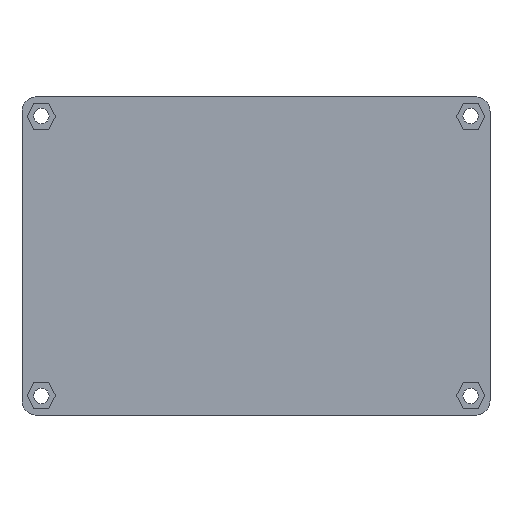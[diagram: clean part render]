
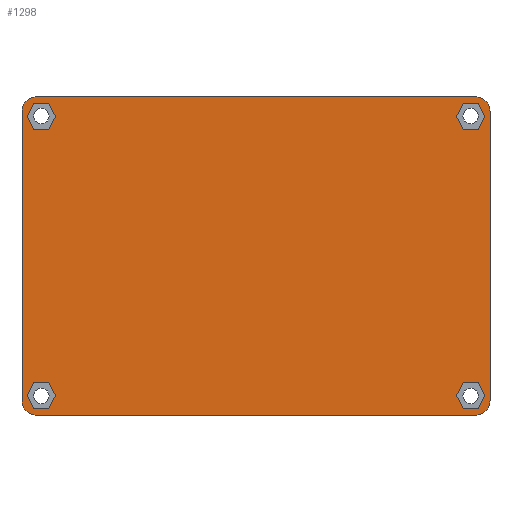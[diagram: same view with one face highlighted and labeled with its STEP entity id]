
A CAD part, front view. The second image highlights one B-rep face of the part: STEP entity #1298.
In plain terms, the highlighted planar face has unit normal (0, -1, 0).
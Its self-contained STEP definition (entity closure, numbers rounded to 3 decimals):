
#39=FACE_BOUND('',#248,.T.);
#40=FACE_BOUND('',#249,.T.);
#41=FACE_BOUND('',#250,.T.);
#42=FACE_BOUND('',#251,.T.);
#75=CIRCLE('',#1415,3.);
#76=CIRCLE('',#1418,3.);
#77=CIRCLE('',#1420,3.);
#78=CIRCLE('',#1423,3.);
#156=FACE_OUTER_BOUND('',#247,.T.);
#247=EDGE_LOOP('',(#1110,#1111,#1112,#1113,#1114,#1115,#1116,#1117));
#248=EDGE_LOOP('',(#1118,#1119,#1120,#1121,#1122,#1123));
#249=EDGE_LOOP('',(#1124,#1125,#1126,#1127,#1128,#1129));
#250=EDGE_LOOP('',(#1130,#1131,#1132,#1133,#1134,#1135));
#251=EDGE_LOOP('',(#1136,#1137,#1138,#1139,#1140,#1141));
#302=LINE('',#1926,#441);
#306=LINE('',#1933,#445);
#313=LINE('',#1952,#452);
#316=LINE('',#1957,#455);
#318=LINE('',#1961,#457);
#320=LINE('',#1965,#459);
#322=LINE('',#1969,#461);
#324=LINE('',#1972,#463);
#331=LINE('',#1991,#470);
#334=LINE('',#1996,#473);
#336=LINE('',#2000,#475);
#338=LINE('',#2004,#477);
#340=LINE('',#2008,#479);
#342=LINE('',#2011,#481);
#349=LINE('',#2030,#488);
#352=LINE('',#2035,#491);
#354=LINE('',#2039,#493);
#356=LINE('',#2043,#495);
#358=LINE('',#2047,#497);
#360=LINE('',#2050,#499);
#367=LINE('',#2067,#506);
#370=LINE('',#2072,#509);
#372=LINE('',#2076,#511);
#374=LINE('',#2080,#513);
#376=LINE('',#2084,#515);
#378=LINE('',#2087,#517);
#390=LINE('',#2133,#529);
#393=LINE('',#2143,#532);
#441=VECTOR('',#1558,10.);
#445=VECTOR('',#1564,10.);
#452=VECTOR('',#1577,10.);
#455=VECTOR('',#1582,10.);
#457=VECTOR('',#1586,10.);
#459=VECTOR('',#1590,10.);
#461=VECTOR('',#1594,10.);
#463=VECTOR('',#1598,10.);
#470=VECTOR('',#1611,10.);
#473=VECTOR('',#1616,10.);
#475=VECTOR('',#1620,10.);
#477=VECTOR('',#1624,10.);
#479=VECTOR('',#1628,10.);
#481=VECTOR('',#1632,10.);
#488=VECTOR('',#1645,10.);
#491=VECTOR('',#1650,10.);
#493=VECTOR('',#1654,10.);
#495=VECTOR('',#1658,10.);
#497=VECTOR('',#1662,10.);
#499=VECTOR('',#1666,10.);
#506=VECTOR('',#1677,10.);
#509=VECTOR('',#1682,10.);
#511=VECTOR('',#1686,10.);
#513=VECTOR('',#1690,10.);
#515=VECTOR('',#1694,10.);
#517=VECTOR('',#1698,10.);
#529=VECTOR('',#1754,10.);
#532=VECTOR('',#1767,10.);
#584=VERTEX_POINT('',#1923);
#585=VERTEX_POINT('',#1925);
#586=VERTEX_POINT('',#1929);
#587=VERTEX_POINT('',#1931);
#595=VERTEX_POINT('',#1950);
#596=VERTEX_POINT('',#1951);
#597=VERTEX_POINT('',#1956);
#598=VERTEX_POINT('',#1960);
#599=VERTEX_POINT('',#1964);
#600=VERTEX_POINT('',#1968);
#608=VERTEX_POINT('',#1989);
#609=VERTEX_POINT('',#1990);
#610=VERTEX_POINT('',#1995);
#611=VERTEX_POINT('',#1999);
#612=VERTEX_POINT('',#2003);
#613=VERTEX_POINT('',#2007);
#621=VERTEX_POINT('',#2028);
#622=VERTEX_POINT('',#2029);
#623=VERTEX_POINT('',#2034);
#624=VERTEX_POINT('',#2038);
#625=VERTEX_POINT('',#2042);
#626=VERTEX_POINT('',#2046);
#633=VERTEX_POINT('',#2065);
#634=VERTEX_POINT('',#2066);
#635=VERTEX_POINT('',#2071);
#636=VERTEX_POINT('',#2075);
#637=VERTEX_POINT('',#2079);
#638=VERTEX_POINT('',#2083);
#649=VERTEX_POINT('',#2127);
#650=VERTEX_POINT('',#2131);
#651=VERTEX_POINT('',#2137);
#652=VERTEX_POINT('',#2141);
#715=EDGE_CURVE('',#584,#585,#302,.T.);
#719=EDGE_CURVE('',#587,#586,#306,.T.);
#727=EDGE_CURVE('',#595,#596,#313,.T.);
#730=EDGE_CURVE('',#596,#597,#316,.T.);
#732=EDGE_CURVE('',#597,#598,#318,.T.);
#734=EDGE_CURVE('',#598,#599,#320,.T.);
#736=EDGE_CURVE('',#599,#600,#322,.T.);
#738=EDGE_CURVE('',#600,#595,#324,.T.);
#746=EDGE_CURVE('',#608,#609,#331,.T.);
#749=EDGE_CURVE('',#609,#610,#334,.T.);
#751=EDGE_CURVE('',#610,#611,#336,.T.);
#753=EDGE_CURVE('',#611,#612,#338,.T.);
#755=EDGE_CURVE('',#612,#613,#340,.T.);
#757=EDGE_CURVE('',#613,#608,#342,.T.);
#765=EDGE_CURVE('',#621,#622,#349,.T.);
#768=EDGE_CURVE('',#622,#623,#352,.T.);
#770=EDGE_CURVE('',#623,#624,#354,.T.);
#772=EDGE_CURVE('',#624,#625,#356,.T.);
#774=EDGE_CURVE('',#625,#626,#358,.T.);
#776=EDGE_CURVE('',#626,#621,#360,.T.);
#783=EDGE_CURVE('',#633,#634,#367,.T.);
#786=EDGE_CURVE('',#634,#635,#370,.T.);
#788=EDGE_CURVE('',#635,#636,#372,.T.);
#790=EDGE_CURVE('',#636,#637,#374,.T.);
#792=EDGE_CURVE('',#637,#638,#376,.T.);
#794=EDGE_CURVE('',#638,#633,#378,.T.);
#812=EDGE_CURVE('',#585,#649,#75,.T.);
#815=EDGE_CURVE('',#649,#650,#390,.T.);
#816=EDGE_CURVE('',#650,#587,#76,.T.);
#817=EDGE_CURVE('',#586,#651,#77,.T.);
#820=EDGE_CURVE('',#651,#652,#393,.T.);
#821=EDGE_CURVE('',#652,#584,#78,.T.);
#1110=ORIENTED_EDGE('',*,*,#821,.F.);
#1111=ORIENTED_EDGE('',*,*,#820,.F.);
#1112=ORIENTED_EDGE('',*,*,#817,.F.);
#1113=ORIENTED_EDGE('',*,*,#719,.F.);
#1114=ORIENTED_EDGE('',*,*,#816,.F.);
#1115=ORIENTED_EDGE('',*,*,#815,.F.);
#1116=ORIENTED_EDGE('',*,*,#812,.F.);
#1117=ORIENTED_EDGE('',*,*,#715,.F.);
#1118=ORIENTED_EDGE('',*,*,#776,.T.);
#1119=ORIENTED_EDGE('',*,*,#765,.T.);
#1120=ORIENTED_EDGE('',*,*,#768,.T.);
#1121=ORIENTED_EDGE('',*,*,#770,.T.);
#1122=ORIENTED_EDGE('',*,*,#772,.T.);
#1123=ORIENTED_EDGE('',*,*,#774,.T.);
#1124=ORIENTED_EDGE('',*,*,#738,.T.);
#1125=ORIENTED_EDGE('',*,*,#727,.T.);
#1126=ORIENTED_EDGE('',*,*,#730,.T.);
#1127=ORIENTED_EDGE('',*,*,#732,.T.);
#1128=ORIENTED_EDGE('',*,*,#734,.T.);
#1129=ORIENTED_EDGE('',*,*,#736,.T.);
#1130=ORIENTED_EDGE('',*,*,#757,.T.);
#1131=ORIENTED_EDGE('',*,*,#746,.T.);
#1132=ORIENTED_EDGE('',*,*,#749,.T.);
#1133=ORIENTED_EDGE('',*,*,#751,.T.);
#1134=ORIENTED_EDGE('',*,*,#753,.T.);
#1135=ORIENTED_EDGE('',*,*,#755,.T.);
#1136=ORIENTED_EDGE('',*,*,#794,.T.);
#1137=ORIENTED_EDGE('',*,*,#783,.T.);
#1138=ORIENTED_EDGE('',*,*,#786,.T.);
#1139=ORIENTED_EDGE('',*,*,#788,.T.);
#1140=ORIENTED_EDGE('',*,*,#790,.T.);
#1141=ORIENTED_EDGE('',*,*,#792,.T.);
#1227=PLANE('',#1422);
#1298=ADVANCED_FACE('',(#156,#39,#40,#41,#42),#1227,.F.);
#1415=AXIS2_PLACEMENT_3D('',#2128,#1748,#1749);
#1418=AXIS2_PLACEMENT_3D('',#2135,#1757,#1758);
#1420=AXIS2_PLACEMENT_3D('',#2138,#1761,#1762);
#1422=AXIS2_PLACEMENT_3D('',#2144,#1768,#1769);
#1423=AXIS2_PLACEMENT_3D('',#2145,#1770,#1771);
#1558=DIRECTION('',(-1.,0.,0.));
#1564=DIRECTION('',(1.,0.,0.));
#1577=DIRECTION('',(1.,0.,0.));
#1582=DIRECTION('',(0.458,0.,-0.889));
#1586=DIRECTION('',(-0.458,0.,-0.889));
#1590=DIRECTION('',(-1.,0.,0.));
#1594=DIRECTION('',(-0.458,0.,0.889));
#1598=DIRECTION('',(0.458,0.,0.889));
#1611=DIRECTION('',(1.,0.,0.));
#1616=DIRECTION('',(0.458,0.,-0.889));
#1620=DIRECTION('',(-0.458,0.,-0.889));
#1624=DIRECTION('',(-1.,0.,0.));
#1628=DIRECTION('',(-0.458,0.,0.889));
#1632=DIRECTION('',(0.458,0.,0.889));
#1645=DIRECTION('',(1.,0.,0.));
#1650=DIRECTION('',(0.458,0.,-0.889));
#1654=DIRECTION('',(-0.458,0.,-0.889));
#1658=DIRECTION('',(-1.,0.,0.));
#1662=DIRECTION('',(-0.458,0.,0.889));
#1666=DIRECTION('',(0.458,0.,0.889));
#1677=DIRECTION('',(1.,0.,0.));
#1682=DIRECTION('',(0.458,0.,-0.889));
#1686=DIRECTION('',(-0.458,0.,-0.889));
#1690=DIRECTION('',(-1.,0.,0.));
#1694=DIRECTION('',(-0.458,0.,0.889));
#1698=DIRECTION('',(0.458,0.,0.889));
#1748=DIRECTION('center_axis',(0.,1.,0.));
#1749=DIRECTION('ref_axis',(-0.707,0.,-0.707));
#1754=DIRECTION('',(0.,0.,1.));
#1757=DIRECTION('center_axis',(0.,1.,0.));
#1758=DIRECTION('ref_axis',(-0.707,0.,0.707));
#1761=DIRECTION('center_axis',(0.,1.,0.));
#1762=DIRECTION('ref_axis',(0.707,0.,0.707));
#1767=DIRECTION('',(0.,0.,-1.));
#1768=DIRECTION('center_axis',(0.,1.,0.));
#1769=DIRECTION('ref_axis',(0.,0.,1.));
#1770=DIRECTION('center_axis',(0.,1.,0.));
#1771=DIRECTION('ref_axis',(0.707,0.,-0.707));
#1923=CARTESIAN_POINT('',(187.5,-1.,-33.));
#1925=CARTESIAN_POINT('',(96.5,-1.,-33.));
#1926=CARTESIAN_POINT('',(118.25,-1.,-33.));
#1929=CARTESIAN_POINT('',(187.5,-1.,33.));
#1931=CARTESIAN_POINT('',(96.5,-1.,33.));
#1933=CARTESIAN_POINT('',(133.,-1.,33.));
#1950=CARTESIAN_POINT('',(95.941,-1.,-26.3));
#1951=CARTESIAN_POINT('',(99.059,-1.,-26.3));
#1952=CARTESIAN_POINT('',(109.971,-1.,-26.3));
#1956=CARTESIAN_POINT('',(100.45,-1.,-29.));
#1957=CARTESIAN_POINT('',(91.231,-1.,-11.108));
#1960=CARTESIAN_POINT('',(99.059,-1.,-31.7));
#1961=CARTESIAN_POINT('',(113.913,-1.,-2.87));
#1964=CARTESIAN_POINT('',(95.941,-1.,-31.7));
#1965=CARTESIAN_POINT('',(111.529,-1.,-31.7));
#1968=CARTESIAN_POINT('',(94.55,-1.,-29.));
#1969=CARTESIAN_POINT('',(87.341,-1.,-15.009));
#1972=CARTESIAN_POINT('',(108.632,-1.,-1.669));
#1989=CARTESIAN_POINT('',(95.941,-1.,31.7));
#1990=CARTESIAN_POINT('',(99.059,-1.,31.7));
#1991=CARTESIAN_POINT('',(109.971,-1.,31.7));
#1995=CARTESIAN_POINT('',(100.45,-1.,29.));
#1996=CARTESIAN_POINT('',(103.039,-1.,23.975));
#1999=CARTESIAN_POINT('',(99.059,-1.,26.3));
#2000=CARTESIAN_POINT('',(102.106,-1.,32.214));
#2003=CARTESIAN_POINT('',(95.941,-1.,26.3));
#2004=CARTESIAN_POINT('',(111.529,-1.,26.3));
#2007=CARTESIAN_POINT('',(94.55,-1.,29.));
#2008=CARTESIAN_POINT('',(99.149,-1.,20.074));
#2011=CARTESIAN_POINT('',(96.825,-1.,33.415));
#2028=CARTESIAN_POINT('',(184.941,-1.,31.7));
#2029=CARTESIAN_POINT('',(188.059,-1.,31.7));
#2030=CARTESIAN_POINT('',(154.471,-1.,31.7));
#2034=CARTESIAN_POINT('',(189.45,-1.,29.));
#2035=CARTESIAN_POINT('',(182.704,-1.,42.094));
#2038=CARTESIAN_POINT('',(188.059,-1.,26.3));
#2039=CARTESIAN_POINT('',(181.771,-1.,14.095));
#2042=CARTESIAN_POINT('',(184.941,-1.,26.3));
#2043=CARTESIAN_POINT('',(156.029,-1.,26.3));
#2046=CARTESIAN_POINT('',(183.55,-1.,29.));
#2047=CARTESIAN_POINT('',(178.814,-1.,38.193));
#2050=CARTESIAN_POINT('',(176.489,-1.,15.297));
#2065=CARTESIAN_POINT('',(184.941,-1.,-26.3));
#2066=CARTESIAN_POINT('',(188.059,-1.,-26.3));
#2067=CARTESIAN_POINT('',(154.471,-1.,-26.3));
#2071=CARTESIAN_POINT('',(189.45,-1.,-29.));
#2072=CARTESIAN_POINT('',(170.896,-1.,7.01));
#2075=CARTESIAN_POINT('',(188.059,-1.,-31.7));
#2076=CARTESIAN_POINT('',(193.578,-1.,-20.988));
#2079=CARTESIAN_POINT('',(184.941,-1.,-31.7));
#2080=CARTESIAN_POINT('',(156.029,-1.,-31.7));
#2083=CARTESIAN_POINT('',(183.55,-1.,-29.));
#2084=CARTESIAN_POINT('',(167.006,-1.,3.109));
#2087=CARTESIAN_POINT('',(188.297,-1.,-19.787));
#2127=CARTESIAN_POINT('',(93.5,-1.,-30.));
#2128=CARTESIAN_POINT('Origin',(96.5,-1.,-30.));
#2131=CARTESIAN_POINT('',(93.5,-1.,30.));
#2133=CARTESIAN_POINT('',(93.5,-1.,0.));
#2135=CARTESIAN_POINT('Origin',(96.5,-1.,30.));
#2137=CARTESIAN_POINT('',(190.5,-1.,30.));
#2138=CARTESIAN_POINT('Origin',(187.5,-1.,30.));
#2141=CARTESIAN_POINT('',(190.5,-1.,-30.));
#2143=CARTESIAN_POINT('',(190.5,-1.,25.));
#2144=CARTESIAN_POINT('Origin',(124.,-1.,25.));
#2145=CARTESIAN_POINT('Origin',(187.5,-1.,-30.));
